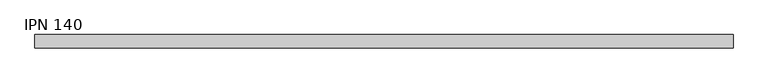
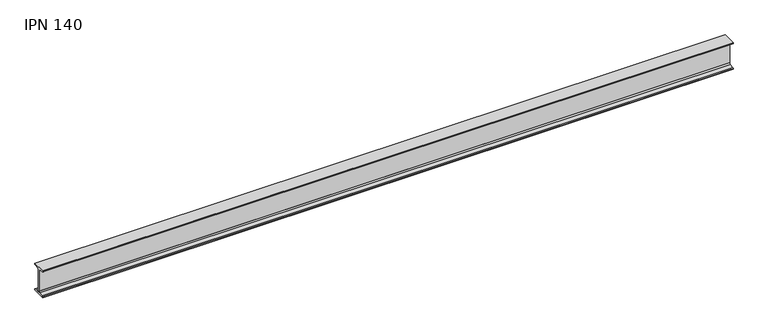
"""IFC4 building model written with IfcOpenShell, lengths in millimetres: beam geometry, IPN - Secciones en I con alas cónicas : IPN 140."""

from ifc_helpers import new_model, si_unit, point, frame, frame_2d, origin, place, context, project, spatial, polyline, circle_curve, trimmed, segment, composite_curve, outline, extrude, source, transform, mapped, element, save


def ipn_140_43540bf7(model_context):
    return source(origin(), model_context, "Body", "SweptSolid", [
        extrude(outline(composite_curve([segment(polyline([(33.0, 70.0), (33.0, 66.6671583)]), True, "CONTINUOUS"), segment(trimmed(circle_curve(frame_2d((29.6, 66.6671583)), 3.4), [point((33.0, 66.6671583))], [point((30.0714027, 63.2999964))], False, "CARTESIAN"), True, "CONTINUOUS"), segment(polyline([(30.0714027, 63.2999964), (7.7597073, 60.176359)]), True, "CONTINUOUS"), segment(trimmed(circle_curve(frame_2d((8.55, 54.5314111)), 5.7), [point((7.7597073, 60.176359))], [point((2.85, 54.5314111))], True, "CARTESIAN"), True, "CONTINUOUS"), segment(polyline([(2.85, 54.5314111), (2.85, -54.5314111)]), True, "CONTINUOUS"), segment(trimmed(circle_curve(frame_2d((8.55, -54.5314111)), 5.7), [point((2.85, -54.5314111))], [point((7.7597073, -60.176359))], True, "CARTESIAN"), True, "CONTINUOUS"), segment(polyline([(7.7597073, -60.176359), (30.0714027, -63.2999964)]), True, "CONTINUOUS"), segment(trimmed(circle_curve(frame_2d((29.6, -66.6671583)), 3.4), [point((30.0714027, -63.2999964))], [point((33.0, -66.6671583))], False, "CARTESIAN"), True, "CONTINUOUS"), segment(polyline([(33.0, -66.6671583), (33.0, -70.0), (-33.0, -70.0), (-33.0, -66.6671583)]), True, "CONTINUOUS"), segment(trimmed(circle_curve(frame_2d((-29.6, -66.6671583)), 3.4), [point((-33.0, -66.6671583))], [point((-30.0714027, -63.2999964))], False, "CARTESIAN"), True, "CONTINUOUS"), segment(polyline([(-30.0714027, -63.2999964), (-7.7597073, -60.176359)]), True, "CONTINUOUS"), segment(trimmed(circle_curve(frame_2d((-8.55, -54.5314111)), 5.7), [point((-7.7597073, -60.176359))], [point((-2.85, -54.5314111))], True, "CARTESIAN"), True, "CONTINUOUS"), segment(polyline([(-2.85, -54.5314111), (-2.85, 54.5314111)]), True, "CONTINUOUS"), segment(trimmed(circle_curve(frame_2d((-8.55, 54.5314111)), 5.7), [point((-2.85, 54.5314111))], [point((-7.7597073, 60.176359))], True, "CARTESIAN"), True, "CONTINUOUS"), segment(polyline([(-7.7597073, 60.176359), (-30.0714027, 63.2999964)]), True, "CONTINUOUS"), segment(trimmed(circle_curve(frame_2d((-29.6, 66.6671583)), 3.4), [point((-30.0714027, 63.2999964))], [point((-33.0, 66.6671583))], False, "CARTESIAN"), True, "CONTINUOUS"), segment(polyline([(-33.0, 66.6671583), (-33.0, 70.0), (33.0, 70.0)]), True, "CONTINUOUS")], self_intersect=False)), frame((-1701.0, 0.0, 0.0), z_axis=(1.0, 0.0, 0.0), x_axis=(0.0, 1.0, 0.0)), (0.0, 0.0, 1.0), 3403.0),
    ])


if __name__ == "__main__":
    model = new_model("IFC4")
    model_context = context("Model", 3, world=origin())
    ifc_project = project(units=[si_unit("LENGTHUNIT", "METRE", prefix="MILLI")], contexts=[model_context])
    site = spatial("IfcSite", under=ifc_project)
    building = spatial("IfcBuilding", under=site)
    placement = place(None, origin())
    ipn_140_shape = ipn_140_43540bf7(model_context)
    element("IfcBeam", 1, ObjectType="IPN - Secciones en I con alas cónicas : IPN 140", at=placement, inside=building, context=model_context, shape_type="MappedRepresentation", body=[
        mapped(ipn_140_shape, transform((0.0, 0.0, 0.0), x_axis=(1.0, 0.0, 0.0), y_axis=(0.0, 1.0, 0.0), z_axis=(0.0, 0.0, 1.0))),
    ])
    save(model, "model.ifc")
